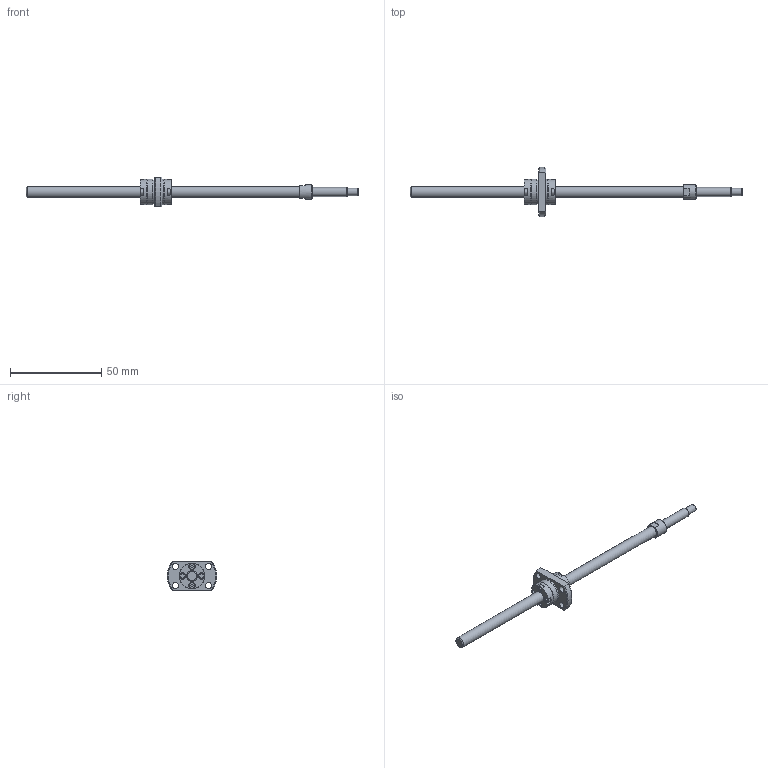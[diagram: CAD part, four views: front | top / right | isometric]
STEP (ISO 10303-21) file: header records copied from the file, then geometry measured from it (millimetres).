
FILE_DESCRIPTION(/* description */ ('STEP AP214'),/* implementation_level */ '2;1');
FILE_NAME(/* name */ 'SRT0606-146R182C7A0X(62.5Processing)',/* time_stamp */ '2026-08-04T17:56:09+02:00',/* author */ ('License CC BY-ND 4.0'),/* organization */ ('CADENAS'),/* preprocessor_version */ 'ST-DEVELOPER v20',/* originating_system */ 'PARTsolutions',/* authorisation */ ' ');
FILE_SCHEMA (('AUTOMOTIVE_DESIGN {1 0 10303 214 3 1 1}'));
Length unit declared in the file: millimetre
Products named in the file (3): SRT0606-146R182C7A0X(62.5Processing); SRT0606-146R220ACt7Processing21Shaft; SRT0606Nut
Assembly tree (2 placements, depth 2):
  SRT0606-146R182C7A0X(62.5Processing)
    SRT0606-146R220ACt7Processing21Shaft
    SRT0606Nut
Bounding box: 182 x 27 x 16 mm (x, y, z)
Volume: 7881.2 mm3; surface area: 5744.6 mm2
Topology: 2 solids, 2 shells, 149 faces, 358 edges, 237 vertices
Faces by surface type: plane 106, cylinder 32, cone 10, torus 1
Full cylindrical faces by diameter (mm): 3 x8, 3.4 x4, 4 x1, 5 x1, 6 x2, 8 x1, 13.6 x1, 13.8 x2, 14 x2
Entity records: 4237 total; most frequent: CARTESIAN_POINT 732, DIRECTION 712, ORIENTED_EDGE 648, EDGE_CURVE 324, AXIS2_PLACEMENT_3D 244, VERTEX_POINT 232, LINE 224, VECTOR 224
